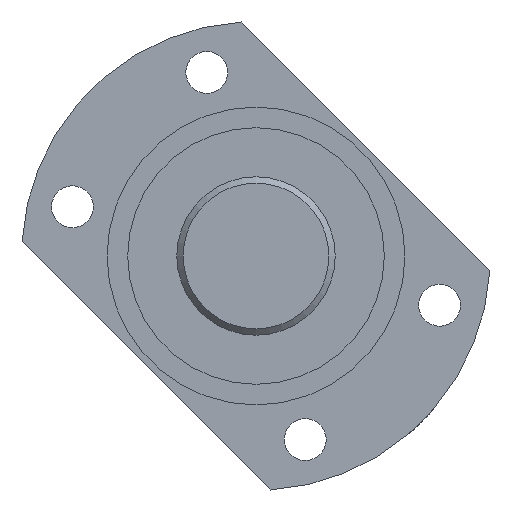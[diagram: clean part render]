
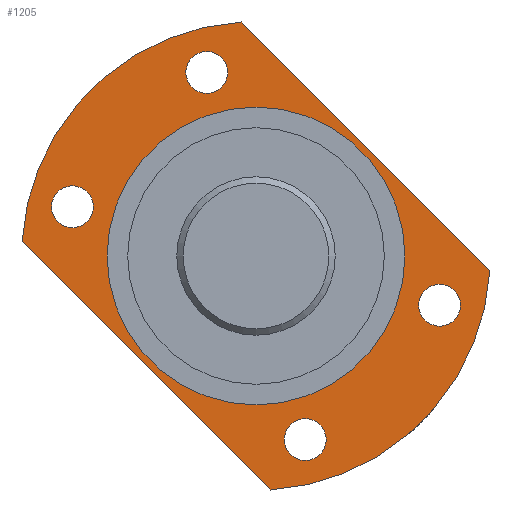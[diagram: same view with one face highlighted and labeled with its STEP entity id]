
A CAD part, left-side view. The second image highlights one B-rep face of the part: STEP entity #1205.
In plain terms, the highlighted planar face has unit normal (-1, 0, 0).
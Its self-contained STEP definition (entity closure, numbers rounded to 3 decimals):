
#7 = VERTEX_POINT ( 'NONE', #1162 ) ;
#24 = AXIS2_PLACEMENT_3D ( 'NONE', #1214, #470, #1343 ) ;
#27 = CIRCLE ( 'NONE', #819, 3.3 ) ;
#53 = CARTESIAN_POINT ( 'NONE',  ( 144.375, 73.364, 28.978 ) ) ;
#64 = EDGE_CURVE ( 'NONE', #1442, #1442, #876, .T. ) ;
#65 = LINE ( 'NONE', #227, #497 ) ;
#114 = DIRECTION ( 'NONE',  ( 1., 0., 0. ) ) ;
#115 = CARTESIAN_POINT ( 'NONE',  ( 144.375, 65.599, 0. ) ) ;
#145 = VERTEX_POINT ( 'NONE', #650 ) ;
#161 = DIRECTION ( 'NONE',  ( 0., 0.707, 0.707 ) ) ;
#186 = AXIS2_PLACEMENT_3D ( 'NONE', #53, #1296, #161 ) ;
#219 = DIRECTION ( 'NONE',  ( -1., 0., 0. ) ) ;
#227 = CARTESIAN_POINT ( 'NONE',  ( 144.375, 82.924, -17.324 ) ) ;
#234 = VERTEX_POINT ( 'NONE', #1078 ) ;
#246 = ORIENTED_EDGE ( 'NONE', *, *, #1040, .T. ) ;
#263 = DIRECTION ( 'NONE',  ( 0., 0.707, 0.707 ) ) ;
#289 = AXIS2_PLACEMENT_3D ( 'NONE', #1582, #1456, #461 ) ;
#290 = VERTEX_POINT ( 'NONE', #576 ) ;
#324 = AXIS2_PLACEMENT_3D ( 'NONE', #115, #1128, #263 ) ;
#332 = CARTESIAN_POINT ( 'NONE',  ( 144.375, 94.577, 7.765 ) ) ;
#334 = VERTEX_POINT ( 'NONE', #1225 ) ;
#356 = CARTESIAN_POINT ( 'NONE',  ( 144.375, 102.529, 2.281 ) ) ;
#413 = DIRECTION ( 'NONE',  ( -1., 0., 0. ) ) ;
#432 = ORIENTED_EDGE ( 'NONE', *, *, #1393, .T. ) ;
#438 = EDGE_CURVE ( 'NONE', #234, #7, #1035, .T. ) ;
#442 = ORIENTED_EDGE ( 'NONE', *, *, #64, .F. ) ;
#452 = FACE_BOUND ( 'NONE', #937, .T. ) ;
#458 = ORIENTED_EDGE ( 'NONE', *, *, #1051, .F. ) ;
#461 = DIRECTION ( 'NONE',  ( 0., 1., 0. ) ) ;
#470 = DIRECTION ( 'NONE',  ( -1., 0., 0. ) ) ;
#497 = VECTOR ( 'NONE', #1436, 1000. ) ;
#527 = EDGE_CURVE ( 'NONE', #7, #1519, #593, .T. ) ;
#538 = EDGE_LOOP ( 'NONE', ( #442 ) ) ;
#556 = CARTESIAN_POINT ( 'NONE',  ( 144.375, 57.835, -28.978 ) ) ;
#570 = ORIENTED_EDGE ( 'NONE', *, *, #905, .F. ) ;
#574 = PLANE ( 'NONE',  #289 ) ;
#576 = CARTESIAN_POINT ( 'NONE',  ( 144.375, 38.955, -5.431 ) ) ;
#579 = CARTESIAN_POINT ( 'NONE',  ( 144.375, 75.697, 31.311 ) ) ;
#580 = EDGE_LOOP ( 'NONE', ( #1410 ) ) ;
#593 = LINE ( 'NONE', #601, #1399 ) ;
#601 = CARTESIAN_POINT ( 'NONE',  ( 144.375, 48.275, 17.324 ) ) ;
#612 = DIRECTION ( 'NONE',  ( 0., 0., 1. ) ) ;
#625 = CIRCLE ( 'NONE', #1549, 3.3 ) ;
#634 = VERTEX_POINT ( 'NONE', #356 ) ;
#650 = CARTESIAN_POINT ( 'NONE',  ( 144.375, 65.599, 23.5 ) ) ;
#696 = FACE_BOUND ( 'NONE', #538, .T. ) ;
#760 = CIRCLE ( 'NONE', #1160, 3.3 ) ;
#803 = EDGE_CURVE ( 'NONE', #145, #145, #892, .T. ) ;
#819 = AXIS2_PLACEMENT_3D ( 'NONE', #1554, #413, #1416 ) ;
#831 = FACE_BOUND ( 'NONE', #580, .T. ) ;
#876 = CIRCLE ( 'NONE', #186, 3.3 ) ;
#892 = CIRCLE ( 'NONE', #1048, 23.5 ) ;
#905 = EDGE_CURVE ( 'NONE', #290, #290, #27, .T. ) ;
#927 = ORIENTED_EDGE ( 'NONE', *, *, #1066, .F. ) ;
#937 = EDGE_LOOP ( 'NONE', ( #570 ) ) ;
#951 = FACE_BOUND ( 'NONE', #1020, .T. ) ;
#1020 = EDGE_LOOP ( 'NONE', ( #927 ) ) ;
#1035 = CIRCLE ( 'NONE', #324, 37. ) ;
#1040 = EDGE_CURVE ( 'NONE', #634, #234, #65, .T. ) ;
#1043 = ORIENTED_EDGE ( 'NONE', *, *, #527, .T. ) ;
#1048 = AXIS2_PLACEMENT_3D ( 'NONE', #1244, #114, #612 ) ;
#1051 = EDGE_CURVE ( 'NONE', #1326, #1326, #760, .T. ) ;
#1066 = EDGE_CURVE ( 'NONE', #334, #334, #625, .T. ) ;
#1078 = CARTESIAN_POINT ( 'NONE',  ( 144.375, 63.318, -36.93 ) ) ;
#1128 = DIRECTION ( 'NONE',  ( -1., 0., 0. ) ) ;
#1140 = EDGE_LOOP ( 'NONE', ( #1043, #432, #246, #1249 ) ) ;
#1160 = AXIS2_PLACEMENT_3D ( 'NONE', #332, #219, #1231 ) ;
#1162 = CARTESIAN_POINT ( 'NONE',  ( 144.375, 28.67, -2.281 ) ) ;
#1204 = DIRECTION ( 'NONE',  ( -1., 0., 0. ) ) ;
#1205 = ADVANCED_FACE ( 'NONE', ( #696, #1574, #452, #951, #1446, #831 ), #574, .T. ) ;
#1214 = CARTESIAN_POINT ( 'NONE',  ( 144.375, 65.599, 0. ) ) ;
#1225 = CARTESIAN_POINT ( 'NONE',  ( 144.375, 60.168, -26.644 ) ) ;
#1231 = DIRECTION ( 'NONE',  ( 0., 0.707, 0.707 ) ) ;
#1244 = CARTESIAN_POINT ( 'NONE',  ( 144.375, 65.599, 0. ) ) ;
#1249 = ORIENTED_EDGE ( 'NONE', *, *, #438, .T. ) ;
#1296 = DIRECTION ( 'NONE',  ( -1., 0., 0. ) ) ;
#1306 = EDGE_LOOP ( 'NONE', ( #458 ) ) ;
#1324 = DIRECTION ( 'NONE',  ( 0., 0.707, 0.707 ) ) ;
#1326 = VERTEX_POINT ( 'NONE', #1458 ) ;
#1343 = DIRECTION ( 'NONE',  ( 0., 0.707, 0.707 ) ) ;
#1384 = CIRCLE ( 'NONE', #24, 37. ) ;
#1393 = EDGE_CURVE ( 'NONE', #1519, #634, #1384, .T. ) ;
#1399 = VECTOR ( 'NONE', #1516, 1000. ) ;
#1410 = ORIENTED_EDGE ( 'NONE', *, *, #803, .T. ) ;
#1416 = DIRECTION ( 'NONE',  ( 0., 0.707, 0.707 ) ) ;
#1436 = DIRECTION ( 'NONE',  ( 0., -0.707, -0.707 ) ) ;
#1442 = VERTEX_POINT ( 'NONE', #579 ) ;
#1446 = FACE_OUTER_BOUND ( 'NONE', #1140, .T. ) ;
#1456 = DIRECTION ( 'NONE',  ( -1., 0., 0. ) ) ;
#1458 = CARTESIAN_POINT ( 'NONE',  ( 144.375, 96.911, 10.098 ) ) ;
#1498 = CARTESIAN_POINT ( 'NONE',  ( 144.375, 67.881, 36.93 ) ) ;
#1516 = DIRECTION ( 'NONE',  ( 0., 0.707, 0.707 ) ) ;
#1519 = VERTEX_POINT ( 'NONE', #1498 ) ;
#1549 = AXIS2_PLACEMENT_3D ( 'NONE', #556, #1204, #1324 ) ;
#1554 = CARTESIAN_POINT ( 'NONE',  ( 144.375, 36.622, -7.765 ) ) ;
#1574 = FACE_BOUND ( 'NONE', #1306, .T. ) ;
#1582 = CARTESIAN_POINT ( 'NONE',  ( 144.375, 65.599, 0. ) ) ;
